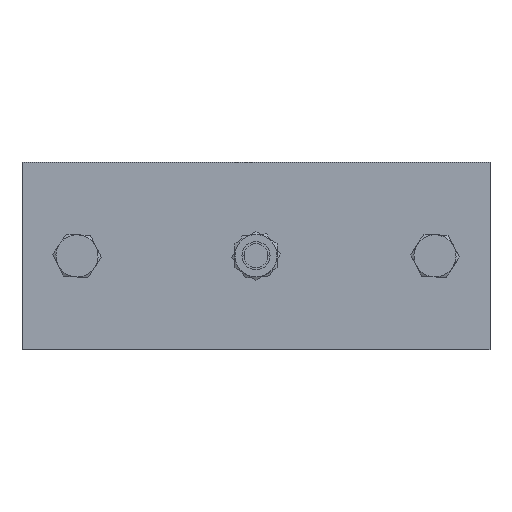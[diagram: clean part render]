
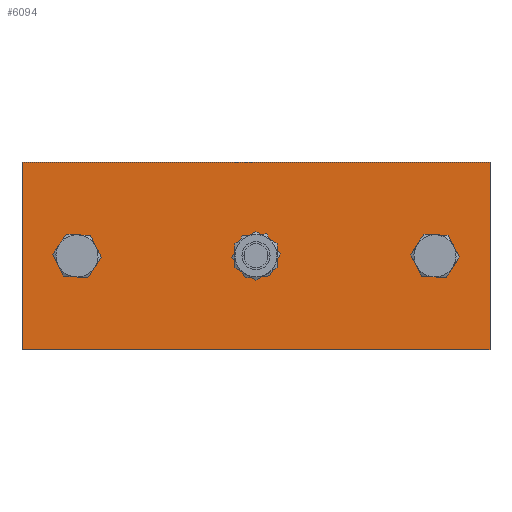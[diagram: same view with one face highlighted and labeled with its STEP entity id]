
A CAD part, top view. The second image highlights one B-rep face of the part: STEP entity #6094.
In plain terms, the highlighted planar face has unit normal (0, 0, 1).
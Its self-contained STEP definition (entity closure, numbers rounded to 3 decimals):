
#40 = DIRECTION ( 'NONE',  ( 1., 0., 0. ) ) ;
#225 = CARTESIAN_POINT ( 'NONE',  ( 118.357, -33.121, 6. ) ) ;
#260 = VERTEX_POINT ( 'NONE', #6558 ) ;
#273 = VERTEX_POINT ( 'NONE', #225 ) ;
#509 = CARTESIAN_POINT ( 'NONE',  ( 94.857, 6.879, 6. ) ) ;
#591 = CARTESIAN_POINT ( 'NONE',  ( 12.357, 6.879, 6. ) ) ;
#690 = ORIENTED_EDGE ( 'NONE', *, *, #3378, .T. ) ;
#733 = CARTESIAN_POINT ( 'NONE',  ( -81.643, 46.879, 6. ) ) ;
#904 = ORIENTED_EDGE ( 'NONE', *, *, #6088, .F. ) ;
#1033 = CARTESIAN_POINT ( 'NONE',  ( -81.643, -33.121, 6. ) ) ;
#1040 = CIRCLE ( 'NONE', #5212, 7. ) ;
#1052 = CIRCLE ( 'NONE', #6615, 6. ) ;
#1134 = CARTESIAN_POINT ( 'NONE',  ( 24.357, 6.879, 6. ) ) ;
#1166 = CARTESIAN_POINT ( 'NONE',  ( -58.143, 6.879, 6. ) ) ;
#1188 = CIRCLE ( 'NONE', #2815, 7. ) ;
#1385 = EDGE_LOOP ( 'NONE', ( #1731, #3822 ) ) ;
#1474 = VECTOR ( 'NONE', #2322, 1000. ) ;
#1538 = LINE ( 'NONE', #1033, #3460 ) ;
#1599 = CARTESIAN_POINT ( 'NONE',  ( 18.357, 6.879, 6. ) ) ;
#1652 = VERTEX_POINT ( 'NONE', #2371 ) ;
#1666 = CARTESIAN_POINT ( 'NONE',  ( -58.143, 6.879, 6. ) ) ;
#1731 = ORIENTED_EDGE ( 'NONE', *, *, #4464, .F. ) ;
#1737 = VERTEX_POINT ( 'NONE', #2668 ) ;
#1783 = DIRECTION ( 'NONE',  ( 0., 1., 0. ) ) ;
#1875 = VERTEX_POINT ( 'NONE', #4489 ) ;
#1978 = CIRCLE ( 'NONE', #5808, 6. ) ;
#2004 = DIRECTION ( 'NONE',  ( 1., 0., 0. ) ) ;
#2033 = VECTOR ( 'NONE', #3779, 1000. ) ;
#2166 = EDGE_CURVE ( 'NONE', #4738, #2935, #1978, .T. ) ;
#2315 = LINE ( 'NONE', #6056, #2033 ) ;
#2322 = DIRECTION ( 'NONE',  ( 0., -1., 0. ) ) ;
#2371 = CARTESIAN_POINT ( 'NONE',  ( -65.143, 6.879, 6. ) ) ;
#2446 = LINE ( 'NONE', #733, #1474 ) ;
#2567 = ORIENTED_EDGE ( 'NONE', *, *, #4246, .T. ) ;
#2584 = ORIENTED_EDGE ( 'NONE', *, *, #5585, .F. ) ;
#2586 = ORIENTED_EDGE ( 'NONE', *, *, #5860, .T. ) ;
#2658 = FACE_BOUND ( 'NONE', #1385, .T. ) ;
#2668 = CARTESIAN_POINT ( 'NONE',  ( -51.143, 6.879, 6. ) ) ;
#2741 = LINE ( 'NONE', #5947, #4788 ) ;
#2815 = AXIS2_PLACEMENT_3D ( 'NONE', #1166, #4814, #40 ) ;
#2935 = VERTEX_POINT ( 'NONE', #1134 ) ;
#3138 = VERTEX_POINT ( 'NONE', #4875 ) ;
#3149 = DIRECTION ( 'NONE',  ( 1., 0., 0. ) ) ;
#3184 = ORIENTED_EDGE ( 'NONE', *, *, #6249, .F. ) ;
#3378 = EDGE_CURVE ( 'NONE', #6819, #1875, #2446, .T. ) ;
#3460 = VECTOR ( 'NONE', #6457, 1000. ) ;
#3731 = PLANE ( 'NONE',  #4995 ) ;
#3779 = DIRECTION ( 'NONE',  ( -1., 0., 0. ) ) ;
#3822 = ORIENTED_EDGE ( 'NONE', *, *, #2166, .F. ) ;
#3844 = EDGE_CURVE ( 'NONE', #3138, #260, #1040, .T. ) ;
#3910 = VERTEX_POINT ( 'NONE', #5906 ) ;
#3927 = CIRCLE ( 'NONE', #4469, 7. ) ;
#4086 = DIRECTION ( 'NONE',  ( 1., 0., 0. ) ) ;
#4098 = ORIENTED_EDGE ( 'NONE', *, *, #3844, .F. ) ;
#4176 = DIRECTION ( 'NONE',  ( 1., 0., 0. ) ) ;
#4246 = EDGE_CURVE ( 'NONE', #1875, #273, #1538, .T. ) ;
#4268 = CARTESIAN_POINT ( 'NONE',  ( 18.357, 6.879, 6. ) ) ;
#4326 = AXIS2_PLACEMENT_3D ( 'NONE', #6208, #6778, #2004 ) ;
#4464 = EDGE_CURVE ( 'NONE', #2935, #4738, #1052, .T. ) ;
#4469 = AXIS2_PLACEMENT_3D ( 'NONE', #1666, #4631, #4176 ) ;
#4489 = CARTESIAN_POINT ( 'NONE',  ( -81.643, -33.121, 6. ) ) ;
#4541 = CIRCLE ( 'NONE', #4326, 7. ) ;
#4595 = CARTESIAN_POINT ( 'NONE',  ( -81.643, 46.879, 6. ) ) ;
#4631 = DIRECTION ( 'NONE',  ( 0., 0., 1. ) ) ;
#4738 = VERTEX_POINT ( 'NONE', #591 ) ;
#4765 = ORIENTED_EDGE ( 'NONE', *, *, #6757, .T. ) ;
#4788 = VECTOR ( 'NONE', #1783, 1000. ) ;
#4814 = DIRECTION ( 'NONE',  ( 0., 0., 1. ) ) ;
#4824 = EDGE_LOOP ( 'NONE', ( #2586, #4765, #690, #2567 ) ) ;
#4855 = DIRECTION ( 'NONE',  ( 1., 0., 0. ) ) ;
#4875 = CARTESIAN_POINT ( 'NONE',  ( 87.857, 6.879, 6. ) ) ;
#4995 = AXIS2_PLACEMENT_3D ( 'NONE', #1599, #5780, #3149 ) ;
#5004 = DIRECTION ( 'NONE',  ( 0., 0., 1. ) ) ;
#5108 = EDGE_LOOP ( 'NONE', ( #3184, #4098 ) ) ;
#5212 = AXIS2_PLACEMENT_3D ( 'NONE', #509, #6286, #4086 ) ;
#5231 = FACE_BOUND ( 'NONE', #5305, .T. ) ;
#5305 = EDGE_LOOP ( 'NONE', ( #904, #2584 ) ) ;
#5585 = EDGE_CURVE ( 'NONE', #1652, #1737, #1188, .T. ) ;
#5780 = DIRECTION ( 'NONE',  ( 0., 0., 1. ) ) ;
#5804 = DIRECTION ( 'NONE',  ( 1., 0., 0. ) ) ;
#5808 = AXIS2_PLACEMENT_3D ( 'NONE', #6031, #5004, #4855 ) ;
#5860 = EDGE_CURVE ( 'NONE', #273, #3910, #2741, .T. ) ;
#5906 = CARTESIAN_POINT ( 'NONE',  ( 118.357, 46.879, 6. ) ) ;
#5947 = CARTESIAN_POINT ( 'NONE',  ( 118.357, 46.879, 6. ) ) ;
#6031 = CARTESIAN_POINT ( 'NONE',  ( 18.357, 6.879, 6. ) ) ;
#6056 = CARTESIAN_POINT ( 'NONE',  ( -81.643, 46.879, 6. ) ) ;
#6088 = EDGE_CURVE ( 'NONE', #1737, #1652, #3927, .T. ) ;
#6094 = ADVANCED_FACE ( 'NONE', ( #6426, #5231, #2658, #6341 ), #3731, .T. ) ;
#6208 = CARTESIAN_POINT ( 'NONE',  ( 94.857, 6.879, 6. ) ) ;
#6249 = EDGE_CURVE ( 'NONE', #260, #3138, #4541, .T. ) ;
#6286 = DIRECTION ( 'NONE',  ( 0., 0., 1. ) ) ;
#6341 = FACE_OUTER_BOUND ( 'NONE', #4824, .T. ) ;
#6426 = FACE_BOUND ( 'NONE', #5108, .T. ) ;
#6449 = DIRECTION ( 'NONE',  ( 0., 0., 1. ) ) ;
#6457 = DIRECTION ( 'NONE',  ( 1., 0., 0. ) ) ;
#6558 = CARTESIAN_POINT ( 'NONE',  ( 101.857, 6.879, 6. ) ) ;
#6615 = AXIS2_PLACEMENT_3D ( 'NONE', #4268, #6449, #5804 ) ;
#6757 = EDGE_CURVE ( 'NONE', #3910, #6819, #2315, .T. ) ;
#6778 = DIRECTION ( 'NONE',  ( 0., 0., 1. ) ) ;
#6819 = VERTEX_POINT ( 'NONE', #4595 ) ;
